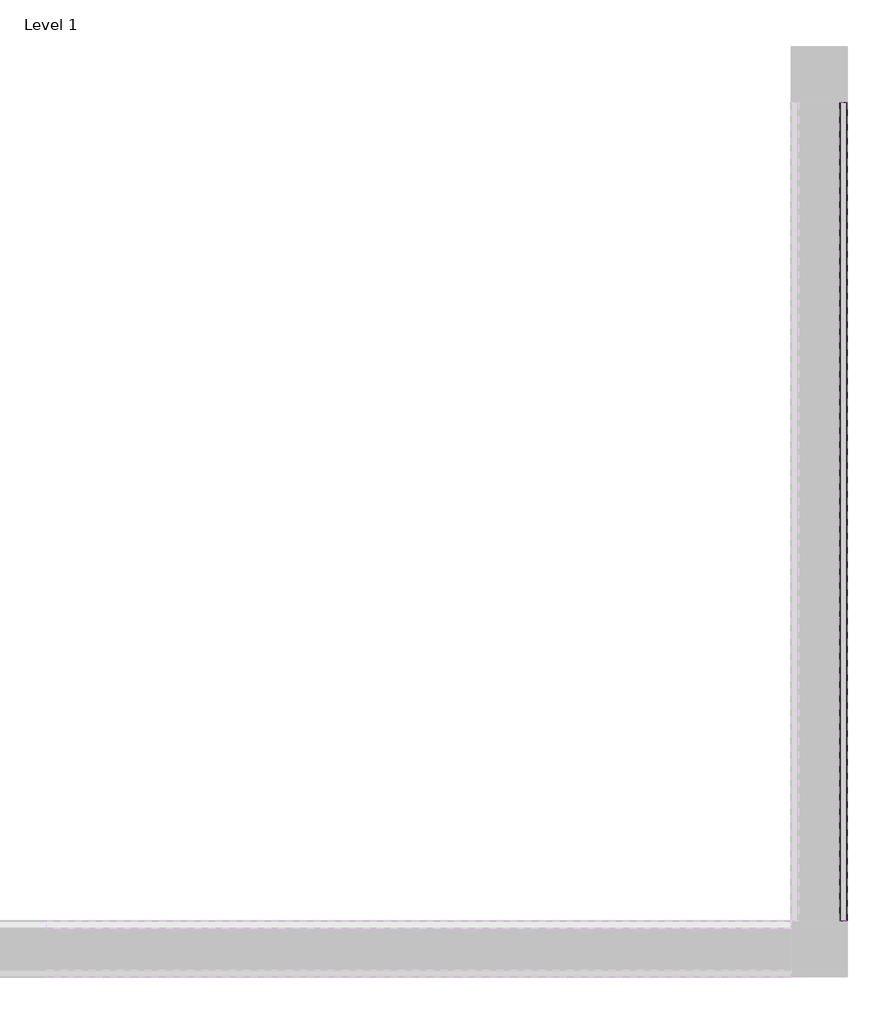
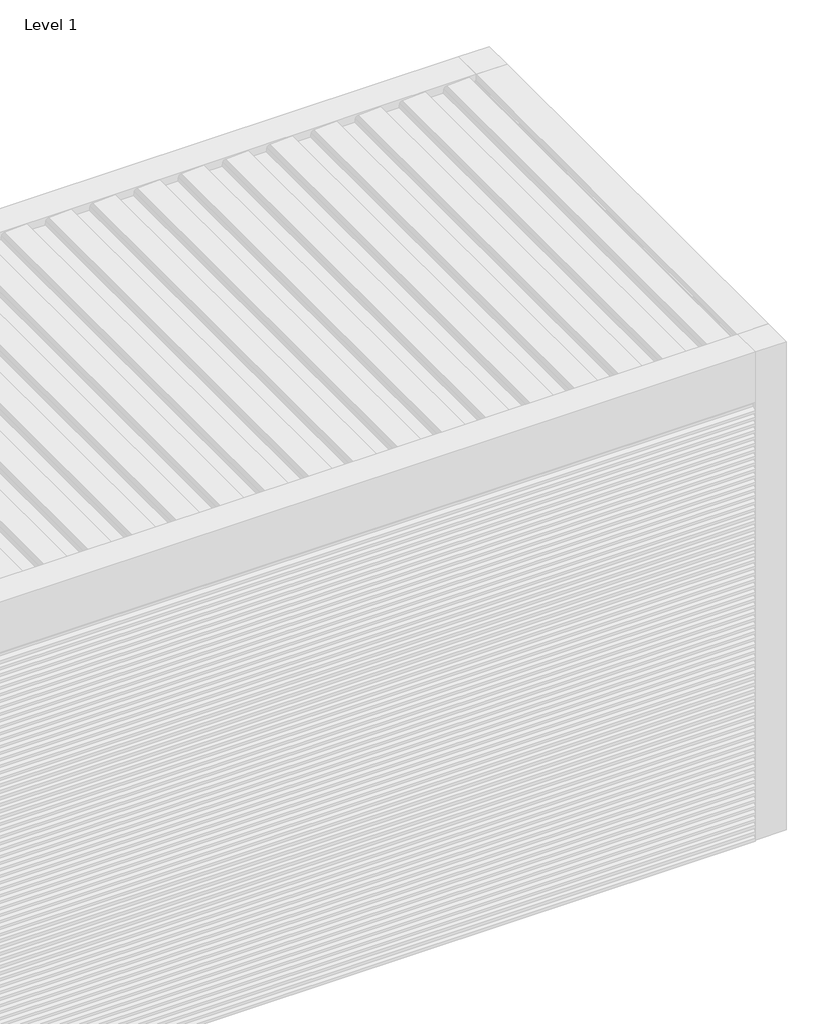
# One storey, part 66 of 69: 85 proxies.
"""IFC4 building model written with IfcOpenShell, lengths in millimetres."""

from ifc_helpers import new_model, si_unit, frame, origin, place, context, project, spatial, polyline, outline, extrude, element, save

model = new_model("IFC4")

# Units and contexts
model_context = context("Model", 3, world=origin())
ifc_project = project(units=[si_unit("LENGTHUNIT", "METRE", prefix="MILLI")], contexts=[model_context])

# Site, building, storey
site = spatial("IfcSite", under=ifc_project)
building = spatial("IfcBuilding", under=site)
storey = spatial("IfcBuildingStorey", under=building, Name="Level 1", Elevation=0.0)

# Proxies
placement = place(None, origin())
element("IfcBuildingElementProxy", 1, Name="Wall Sweeps", at=placement, inside=storey, context=model_context, shape_type="SweptSolid", body=[
    extrude(outline(polyline([(2173.8, 228400.4900207), (2184.8562577, 228381.3400207), (2197.8, 228381.3400207), (2197.8, 228380.0900207), (2184.1345698, 228380.0900207), (2173.0782281, 228399.2400207), (2161.0216933, 228399.2400207), (2160.3, 228400.4900207), (2173.8, 228400.4900207)])), frame((0.0, 39672.1593685, 0.0), z_axis=(0.0, 1.0, 0.0), x_axis=(0.0, 0.0, 1.0)), (0.0, 0.0, 1.0), 2200.0),
])
element("IfcBuildingElementProxy", 2, Name="Wall Sweeps", at=placement, inside=storey, context=model_context, shape_type="SweptSolid", body=[
    extrude(outline(polyline([(2140.5, 228400.4900207), (2151.5562577, 228381.3400207), (2164.5, 228381.3400207), (2164.5, 228380.0900207), (2150.8345698, 228380.0900207), (2139.7782281, 228399.2400207), (2127.7216933, 228399.2400207), (2127.0, 228400.4900207), (2140.5, 228400.4900207)])), frame((0.0, 39672.1593685, 0.0), z_axis=(0.0, 1.0, 0.0), x_axis=(0.0, 0.0, 1.0)), (0.0, 0.0, 1.0), 2200.0),
])
element("IfcBuildingElementProxy", 3, Name="Wall Sweeps", at=placement, inside=storey, context=model_context, shape_type="SweptSolid", body=[
    extrude(outline(polyline([(2107.2, 228400.4900207), (2118.2562577, 228381.3400207), (2131.2, 228381.3400207), (2131.2, 228380.0900207), (2117.5345698, 228380.0900207), (2106.4782281, 228399.2400207), (2094.4216933, 228399.2400207), (2093.7, 228400.4900207), (2107.2, 228400.4900207)])), frame((0.0, 39672.1593685, 0.0), z_axis=(0.0, 1.0, 0.0), x_axis=(0.0, 0.0, 1.0)), (0.0, 0.0, 1.0), 2200.0),
])
element("IfcBuildingElementProxy", 4, Name="Wall Sweeps", at=placement, inside=storey, context=model_context, shape_type="SweptSolid", body=[
    extrude(outline(polyline([(2073.9, 228400.4900207), (2084.9562577, 228381.3400207), (2097.9, 228381.3400207), (2097.9, 228380.0900207), (2084.2345698, 228380.0900207), (2073.1782281, 228399.2400207), (2061.1216933, 228399.2400207), (2060.4, 228400.4900207), (2073.9, 228400.4900207)])), frame((0.0, 39672.1593685, 0.0), z_axis=(0.0, 1.0, 0.0), x_axis=(0.0, 0.0, 1.0)), (0.0, 0.0, 1.0), 2200.0),
])
element("IfcBuildingElementProxy", 5, Name="Wall Sweeps", at=placement, inside=storey, context=model_context, shape_type="SweptSolid", body=[
    extrude(outline(polyline([(2040.6, 228400.4900207), (2051.6562577, 228381.3400207), (2064.6, 228381.3400207), (2064.6, 228380.0900207), (2050.9345698, 228380.0900207), (2039.8782281, 228399.2400207), (2027.8216933, 228399.2400207), (2027.1, 228400.4900207), (2040.6, 228400.4900207)])), frame((0.0, 39672.1593685, 0.0), z_axis=(0.0, 1.0, 0.0), x_axis=(0.0, 0.0, 1.0)), (0.0, 0.0, 1.0), 2200.0),
])
element("IfcBuildingElementProxy", 6, Name="Wall Sweeps", at=placement, inside=storey, context=model_context, shape_type="SweptSolid", body=[
    extrude(outline(polyline([(2007.3, 228400.4900207), (2018.3562577, 228381.3400207), (2031.3, 228381.3400207), (2031.3, 228380.0900207), (2017.6345698, 228380.0900207), (2006.5782281, 228399.2400207), (1994.5216933, 228399.2400207), (1993.8, 228400.4900207), (2007.3, 228400.4900207)])), frame((0.0, 39672.1593685, 0.0), z_axis=(0.0, 1.0, 0.0), x_axis=(0.0, 0.0, 1.0)), (0.0, 0.0, 1.0), 2200.0),
])
element("IfcBuildingElementProxy", 7, Name="Wall Sweeps", at=placement, inside=storey, context=model_context, shape_type="SweptSolid", body=[
    extrude(outline(polyline([(1974.0, 228400.4900207), (1985.0562577, 228381.3400207), (1998.0, 228381.3400207), (1998.0, 228380.0900207), (1984.3345698, 228380.0900207), (1973.2782281, 228399.2400207), (1961.2216933, 228399.2400207), (1960.5, 228400.4900207), (1974.0, 228400.4900207)])), frame((0.0, 39672.1593685, 0.0), z_axis=(0.0, 1.0, 0.0), x_axis=(0.0, 0.0, 1.0)), (0.0, 0.0, 1.0), 2200.0),
])
element("IfcBuildingElementProxy", 8, Name="Wall Sweeps", at=placement, inside=storey, context=model_context, shape_type="SweptSolid", body=[
    extrude(outline(polyline([(1940.7, 228400.4900207), (1951.7562577, 228381.3400207), (1964.7, 228381.3400207), (1964.7, 228380.0900207), (1951.0345698, 228380.0900207), (1939.9782281, 228399.2400207), (1927.9216933, 228399.2400207), (1927.2, 228400.4900207), (1940.7, 228400.4900207)])), frame((0.0, 39672.1593685, 0.0), z_axis=(0.0, 1.0, 0.0), x_axis=(0.0, 0.0, 1.0)), (0.0, 0.0, 1.0), 2200.0),
])
element("IfcBuildingElementProxy", 9, Name="Wall Sweeps", at=placement, inside=storey, context=model_context, shape_type="SweptSolid", body=[
    extrude(outline(polyline([(1907.4, 228400.4900207), (1918.4562577, 228381.3400207), (1931.4, 228381.3400207), (1931.4, 228380.0900207), (1917.7345698, 228380.0900207), (1906.6782281, 228399.2400207), (1894.6216933, 228399.2400207), (1893.9, 228400.4900207), (1907.4, 228400.4900207)])), frame((0.0, 39672.1593685, 0.0), z_axis=(0.0, 1.0, 0.0), x_axis=(0.0, 0.0, 1.0)), (0.0, 0.0, 1.0), 2200.0),
])
element("IfcBuildingElementProxy", 10, Name="Wall Sweeps", at=placement, inside=storey, context=model_context, shape_type="SweptSolid", body=[
    extrude(outline(polyline([(1874.1, 228400.4900207), (1885.1562577, 228381.3400207), (1898.1, 228381.3400207), (1898.1, 228380.0900207), (1884.4345698, 228380.0900207), (1873.3782281, 228399.2400207), (1861.3216933, 228399.2400207), (1860.6, 228400.4900207), (1874.1, 228400.4900207)])), frame((0.0, 39672.1593685, 0.0), z_axis=(0.0, 1.0, 0.0), x_axis=(0.0, 0.0, 1.0)), (0.0, 0.0, 1.0), 2200.0),
])
element("IfcBuildingElementProxy", 11, Name="Wall Sweeps", at=placement, inside=storey, context=model_context, shape_type="SweptSolid", body=[
    extrude(outline(polyline([(1840.8, 228400.4900207), (1851.8562577, 228381.3400207), (1864.8, 228381.3400207), (1864.8, 228380.0900207), (1851.1345698, 228380.0900207), (1840.0782281, 228399.2400207), (1828.0216933, 228399.2400207), (1827.3, 228400.4900207), (1840.8, 228400.4900207)])), frame((0.0, 39672.1593685, 0.0), z_axis=(0.0, 1.0, 0.0), x_axis=(0.0, 0.0, 1.0)), (0.0, 0.0, 1.0), 2200.0),
])
element("IfcBuildingElementProxy", 12, Name="Wall Sweeps", at=placement, inside=storey, context=model_context, shape_type="SweptSolid", body=[
    extrude(outline(polyline([(1807.5, 228400.4900207), (1818.5562577, 228381.3400207), (1831.5, 228381.3400207), (1831.5, 228380.0900207), (1817.8345698, 228380.0900207), (1806.7782281, 228399.2400207), (1794.7216933, 228399.2400207), (1794.0, 228400.4900207), (1807.5, 228400.4900207)])), frame((0.0, 39672.1593685, 0.0), z_axis=(0.0, 1.0, 0.0), x_axis=(0.0, 0.0, 1.0)), (0.0, 0.0, 1.0), 2200.0),
])
element("IfcBuildingElementProxy", 13, Name="Wall Sweeps", at=placement, inside=storey, context=model_context, shape_type="SweptSolid", body=[
    extrude(outline(polyline([(1774.2, 228400.4900207), (1785.2562577, 228381.3400207), (1798.2, 228381.3400207), (1798.2, 228380.0900207), (1784.5345698, 228380.0900207), (1773.4782281, 228399.2400207), (1761.4216933, 228399.2400207), (1760.7, 228400.4900207), (1774.2, 228400.4900207)])), frame((0.0, 39672.1593685, 0.0), z_axis=(0.0, 1.0, 0.0), x_axis=(0.0, 0.0, 1.0)), (0.0, 0.0, 1.0), 2200.0),
])
element("IfcBuildingElementProxy", 14, Name="Wall Sweeps", at=placement, inside=storey, context=model_context, shape_type="SweptSolid", body=[
    extrude(outline(polyline([(1740.9, 228400.4900207), (1751.9562577, 228381.3400207), (1764.9, 228381.3400207), (1764.9, 228380.0900207), (1751.2345698, 228380.0900207), (1740.1782281, 228399.2400207), (1728.1216933, 228399.2400207), (1727.4, 228400.4900207), (1740.9, 228400.4900207)])), frame((0.0, 39672.1593685, 0.0), z_axis=(0.0, 1.0, 0.0), x_axis=(0.0, 0.0, 1.0)), (0.0, 0.0, 1.0), 2200.0),
])
element("IfcBuildingElementProxy", 15, Name="Wall Sweeps", at=placement, inside=storey, context=model_context, shape_type="SweptSolid", body=[
    extrude(outline(polyline([(1707.6, 228400.4900207), (1718.6562577, 228381.3400207), (1731.6, 228381.3400207), (1731.6, 228380.0900207), (1717.9345698, 228380.0900207), (1706.8782281, 228399.2400207), (1694.8216933, 228399.2400207), (1694.1, 228400.4900207), (1707.6, 228400.4900207)])), frame((0.0, 39672.1593685, 0.0), z_axis=(0.0, 1.0, 0.0), x_axis=(0.0, 0.0, 1.0)), (0.0, 0.0, 1.0), 2200.0),
])
element("IfcBuildingElementProxy", 16, Name="Wall Sweeps", at=placement, inside=storey, context=model_context, shape_type="SweptSolid", body=[
    extrude(outline(polyline([(1674.3, 228400.4900207), (1685.3562577, 228381.3400207), (1698.3, 228381.3400207), (1698.3, 228380.0900207), (1684.6345698, 228380.0900207), (1673.5782281, 228399.2400207), (1661.5216933, 228399.2400207), (1660.8, 228400.4900207), (1674.3, 228400.4900207)])), frame((0.0, 39672.1593685, 0.0), z_axis=(0.0, 1.0, 0.0), x_axis=(0.0, 0.0, 1.0)), (0.0, 0.0, 1.0), 2200.0),
])
element("IfcBuildingElementProxy", 17, Name="Wall Sweeps", at=placement, inside=storey, context=model_context, shape_type="SweptSolid", body=[
    extrude(outline(polyline([(1641.0, 228400.4900207), (1652.0562577, 228381.3400207), (1665.0, 228381.3400207), (1665.0, 228380.0900207), (1651.3345698, 228380.0900207), (1640.2782281, 228399.2400207), (1628.2216933, 228399.2400207), (1627.5, 228400.4900207), (1641.0, 228400.4900207)])), frame((0.0, 39672.1593685, 0.0), z_axis=(0.0, 1.0, 0.0), x_axis=(0.0, 0.0, 1.0)), (0.0, 0.0, 1.0), 2200.0),
])
element("IfcBuildingElementProxy", 18, Name="Wall Sweeps", at=placement, inside=storey, context=model_context, shape_type="SweptSolid", body=[
    extrude(outline(polyline([(1607.7, 228400.4900207), (1618.7562577, 228381.3400207), (1631.7, 228381.3400207), (1631.7, 228380.0900207), (1618.0345698, 228380.0900207), (1606.9782281, 228399.2400207), (1594.9216933, 228399.2400207), (1594.2, 228400.4900207), (1607.7, 228400.4900207)])), frame((0.0, 39672.1593685, 0.0), z_axis=(0.0, 1.0, 0.0), x_axis=(0.0, 0.0, 1.0)), (0.0, 0.0, 1.0), 2200.0),
])
element("IfcBuildingElementProxy", 19, Name="Wall Sweeps", at=placement, inside=storey, context=model_context, shape_type="SweptSolid", body=[
    extrude(outline(polyline([(1574.4, 228400.4900207), (1585.4562577, 228381.3400207), (1598.4, 228381.3400207), (1598.4, 228380.0900207), (1584.7345698, 228380.0900207), (1573.6782281, 228399.2400207), (1561.6216933, 228399.2400207), (1560.9, 228400.4900207), (1574.4, 228400.4900207)])), frame((0.0, 39672.1593685, 0.0), z_axis=(0.0, 1.0, 0.0), x_axis=(0.0, 0.0, 1.0)), (0.0, 0.0, 1.0), 2200.0),
])
element("IfcBuildingElementProxy", 20, Name="Wall Sweeps", at=placement, inside=storey, context=model_context, shape_type="SweptSolid", body=[
    extrude(outline(polyline([(1541.1, 228400.4900207), (1552.1562577, 228381.3400207), (1565.1, 228381.3400207), (1565.1, 228380.0900207), (1551.4345698, 228380.0900207), (1540.3782281, 228399.2400207), (1528.3216933, 228399.2400207), (1527.6, 228400.4900207), (1541.1, 228400.4900207)])), frame((0.0, 39672.1593685, 0.0), z_axis=(0.0, 1.0, 0.0), x_axis=(0.0, 0.0, 1.0)), (0.0, 0.0, 1.0), 2200.0),
])
element("IfcBuildingElementProxy", 21, Name="Wall Sweeps", at=placement, inside=storey, context=model_context, shape_type="SweptSolid", body=[
    extrude(outline(polyline([(1507.8, 228400.4900207), (1518.8562577, 228381.3400207), (1531.8, 228381.3400207), (1531.8, 228380.0900207), (1518.1345698, 228380.0900207), (1507.0782281, 228399.2400207), (1495.0216933, 228399.2400207), (1494.3, 228400.4900207), (1507.8, 228400.4900207)])), frame((0.0, 39672.1593685, 0.0), z_axis=(0.0, 1.0, 0.0), x_axis=(0.0, 0.0, 1.0)), (0.0, 0.0, 1.0), 2200.0),
])
element("IfcBuildingElementProxy", 22, Name="Wall Sweeps", at=placement, inside=storey, context=model_context, shape_type="SweptSolid", body=[
    extrude(outline(polyline([(1474.5, 228400.4900207), (1485.5562577, 228381.3400207), (1498.5, 228381.3400207), (1498.5, 228380.0900207), (1484.8345698, 228380.0900207), (1473.7782281, 228399.2400207), (1461.7216933, 228399.2400207), (1461.0, 228400.4900207), (1474.5, 228400.4900207)])), frame((0.0, 39672.1593685, 0.0), z_axis=(0.0, 1.0, 0.0), x_axis=(0.0, 0.0, 1.0)), (0.0, 0.0, 1.0), 2200.0),
])
element("IfcBuildingElementProxy", 23, Name="Wall Sweeps", at=placement, inside=storey, context=model_context, shape_type="SweptSolid", body=[
    extrude(outline(polyline([(1441.2, 228400.4900207), (1452.2562577, 228381.3400207), (1465.2, 228381.3400207), (1465.2, 228380.0900207), (1451.5345698, 228380.0900207), (1440.4782281, 228399.2400207), (1428.4216933, 228399.2400207), (1427.7, 228400.4900207), (1441.2, 228400.4900207)])), frame((0.0, 39672.1593685, 0.0), z_axis=(0.0, 1.0, 0.0), x_axis=(0.0, 0.0, 1.0)), (0.0, 0.0, 1.0), 2200.0),
])
element("IfcBuildingElementProxy", 24, Name="Wall Sweeps", at=placement, inside=storey, context=model_context, shape_type="SweptSolid", body=[
    extrude(outline(polyline([(1407.9, 228400.4900207), (1418.9562577, 228381.3400207), (1431.9, 228381.3400207), (1431.9, 228380.0900207), (1418.2345698, 228380.0900207), (1407.1782281, 228399.2400207), (1395.1216933, 228399.2400207), (1394.4, 228400.4900207), (1407.9, 228400.4900207)])), frame((0.0, 39672.1593685, 0.0), z_axis=(0.0, 1.0, 0.0), x_axis=(0.0, 0.0, 1.0)), (0.0, 0.0, 1.0), 2200.0),
])
element("IfcBuildingElementProxy", 25, Name="Wall Sweeps", at=placement, inside=storey, context=model_context, shape_type="SweptSolid", body=[
    extrude(outline(polyline([(1374.6, 228400.4900207), (1385.6562577, 228381.3400207), (1398.6, 228381.3400207), (1398.6, 228380.0900207), (1384.9345698, 228380.0900207), (1373.8782281, 228399.2400207), (1361.8216933, 228399.2400207), (1361.1, 228400.4900207), (1374.6, 228400.4900207)])), frame((0.0, 39672.1593685, 0.0), z_axis=(0.0, 1.0, 0.0), x_axis=(0.0, 0.0, 1.0)), (0.0, 0.0, 1.0), 2200.0),
])
element("IfcBuildingElementProxy", 26, Name="Wall Sweeps", at=placement, inside=storey, context=model_context, shape_type="SweptSolid", body=[
    extrude(outline(polyline([(1341.3, 228400.4900207), (1352.3562577, 228381.3400207), (1365.3, 228381.3400207), (1365.3, 228380.0900207), (1351.6345698, 228380.0900207), (1340.5782281, 228399.2400207), (1328.5216933, 228399.2400207), (1327.8, 228400.4900207), (1341.3, 228400.4900207)])), frame((0.0, 39672.1593685, 0.0), z_axis=(0.0, 1.0, 0.0), x_axis=(0.0, 0.0, 1.0)), (0.0, 0.0, 1.0), 2200.0),
])
element("IfcBuildingElementProxy", 27, Name="Wall Sweeps", at=placement, inside=storey, context=model_context, shape_type="SweptSolid", body=[
    extrude(outline(polyline([(1308.0, 228400.4900207), (1319.0562577, 228381.3400207), (1332.0, 228381.3400207), (1332.0, 228380.0900207), (1318.3345698, 228380.0900207), (1307.2782281, 228399.2400207), (1295.2216933, 228399.2400207), (1294.5, 228400.4900207), (1308.0, 228400.4900207)])), frame((0.0, 39672.1593685, 0.0), z_axis=(0.0, 1.0, 0.0), x_axis=(0.0, 0.0, 1.0)), (0.0, 0.0, 1.0), 2200.0),
])
element("IfcBuildingElementProxy", 28, Name="Wall Sweeps", at=placement, inside=storey, context=model_context, shape_type="SweptSolid", body=[
    extrude(outline(polyline([(1274.7, 228400.4900207), (1285.7562577, 228381.3400207), (1298.7, 228381.3400207), (1298.7, 228380.0900207), (1285.0345698, 228380.0900207), (1273.9782281, 228399.2400207), (1261.9216933, 228399.2400207), (1261.2, 228400.4900207), (1274.7, 228400.4900207)])), frame((0.0, 39672.1593685, 0.0), z_axis=(0.0, 1.0, 0.0), x_axis=(0.0, 0.0, 1.0)), (0.0, 0.0, 1.0), 2200.0),
])
element("IfcBuildingElementProxy", 29, Name="Wall Sweeps", at=placement, inside=storey, context=model_context, shape_type="SweptSolid", body=[
    extrude(outline(polyline([(1241.4, 228400.4900207), (1252.4562577, 228381.3400207), (1265.4, 228381.3400207), (1265.4, 228380.0900207), (1251.7345698, 228380.0900207), (1240.6782281, 228399.2400207), (1228.6216933, 228399.2400207), (1227.9, 228400.4900207), (1241.4, 228400.4900207)])), frame((0.0, 39672.1593685, 0.0), z_axis=(0.0, 1.0, 0.0), x_axis=(0.0, 0.0, 1.0)), (0.0, 0.0, 1.0), 2200.0),
])
element("IfcBuildingElementProxy", 30, Name="Wall Sweeps", at=placement, inside=storey, context=model_context, shape_type="SweptSolid", body=[
    extrude(outline(polyline([(1208.1, 228400.4900207), (1219.1562577, 228381.3400207), (1232.1, 228381.3400207), (1232.1, 228380.0900207), (1218.4345698, 228380.0900207), (1207.3782281, 228399.2400207), (1195.3216933, 228399.2400207), (1194.6, 228400.4900207), (1208.1, 228400.4900207)])), frame((0.0, 39672.1593685, 0.0), z_axis=(0.0, 1.0, 0.0), x_axis=(0.0, 0.0, 1.0)), (0.0, 0.0, 1.0), 2200.0),
])
element("IfcBuildingElementProxy", 31, Name="Wall Sweeps", at=placement, inside=storey, context=model_context, shape_type="SweptSolid", body=[
    extrude(outline(polyline([(1174.8, 228400.4900207), (1185.8562577, 228381.3400207), (1198.8, 228381.3400207), (1198.8, 228380.0900207), (1185.1345698, 228380.0900207), (1174.0782281, 228399.2400207), (1162.0216933, 228399.2400207), (1161.3, 228400.4900207), (1174.8, 228400.4900207)])), frame((0.0, 39672.1593685, 0.0), z_axis=(0.0, 1.0, 0.0), x_axis=(0.0, 0.0, 1.0)), (0.0, 0.0, 1.0), 2200.0),
])
element("IfcBuildingElementProxy", 32, Name="Wall Sweeps", at=placement, inside=storey, context=model_context, shape_type="SweptSolid", body=[
    extrude(outline(polyline([(1141.5, 228400.4900207), (1152.5562577, 228381.3400207), (1165.5, 228381.3400207), (1165.5, 228380.0900207), (1151.8345698, 228380.0900207), (1140.7782281, 228399.2400207), (1128.7216933, 228399.2400207), (1128.0, 228400.4900207), (1141.5, 228400.4900207)])), frame((0.0, 39672.1593685, 0.0), z_axis=(0.0, 1.0, 0.0), x_axis=(0.0, 0.0, 1.0)), (0.0, 0.0, 1.0), 2200.0),
])
element("IfcBuildingElementProxy", 33, Name="Wall Sweeps", at=placement, inside=storey, context=model_context, shape_type="SweptSolid", body=[
    extrude(outline(polyline([(1108.2, 228400.4900207), (1119.2562577, 228381.3400207), (1132.2, 228381.3400207), (1132.2, 228380.0900207), (1118.5345698, 228380.0900207), (1107.4782281, 228399.2400207), (1095.4216933, 228399.2400207), (1094.7, 228400.4900207), (1108.2, 228400.4900207)])), frame((0.0, 39672.1593685, 0.0), z_axis=(0.0, 1.0, 0.0), x_axis=(0.0, 0.0, 1.0)), (0.0, 0.0, 1.0), 2200.0),
])
element("IfcBuildingElementProxy", 34, Name="Wall Sweeps", at=placement, inside=storey, context=model_context, shape_type="SweptSolid", body=[
    extrude(outline(polyline([(1074.9, 228400.4900207), (1085.9562577, 228381.3400207), (1098.9, 228381.3400207), (1098.9, 228380.0900207), (1085.2345698, 228380.0900207), (1074.1782281, 228399.2400207), (1062.1216933, 228399.2400207), (1061.4, 228400.4900207), (1074.9, 228400.4900207)])), frame((0.0, 39672.1593685, 0.0), z_axis=(0.0, 1.0, 0.0), x_axis=(0.0, 0.0, 1.0)), (0.0, 0.0, 1.0), 2200.0),
])
element("IfcBuildingElementProxy", 35, Name="Wall Sweeps", at=placement, inside=storey, context=model_context, shape_type="SweptSolid", body=[
    extrude(outline(polyline([(1041.6, 228400.4900207), (1052.6562577, 228381.3400207), (1065.6, 228381.3400207), (1065.6, 228380.0900207), (1051.9345698, 228380.0900207), (1040.8782281, 228399.2400207), (1028.8216933, 228399.2400207), (1028.1, 228400.4900207), (1041.6, 228400.4900207)])), frame((0.0, 39672.1593685, 0.0), z_axis=(0.0, 1.0, 0.0), x_axis=(0.0, 0.0, 1.0)), (0.0, 0.0, 1.0), 2200.0),
])
element("IfcBuildingElementProxy", 36, Name="Wall Sweeps", at=placement, inside=storey, context=model_context, shape_type="SweptSolid", body=[
    extrude(outline(polyline([(1008.3, 228400.4900207), (1019.3562577, 228381.3400207), (1032.3, 228381.3400207), (1032.3, 228380.0900207), (1018.6345698, 228380.0900207), (1007.5782281, 228399.2400207), (995.5216933, 228399.2400207), (994.8, 228400.4900207), (1008.3, 228400.4900207)])), frame((0.0, 39672.1593685, 0.0), z_axis=(0.0, 1.0, 0.0), x_axis=(0.0, 0.0, 1.0)), (0.0, 0.0, 1.0), 2200.0),
])
element("IfcBuildingElementProxy", 37, Name="Wall Sweeps", at=placement, inside=storey, context=model_context, shape_type="SweptSolid", body=[
    extrude(outline(polyline([(975.0, 228400.4900207), (986.0562577, 228381.3400207), (999.0, 228381.3400207), (999.0, 228380.0900207), (985.3345698, 228380.0900207), (974.2782281, 228399.2400207), (962.2216933, 228399.2400207), (961.5, 228400.4900207), (975.0, 228400.4900207)])), frame((0.0, 39672.1593685, 0.0), z_axis=(0.0, 1.0, 0.0), x_axis=(0.0, 0.0, 1.0)), (0.0, 0.0, 1.0), 2200.0),
])
element("IfcBuildingElementProxy", 38, Name="Wall Sweeps", at=placement, inside=storey, context=model_context, shape_type="SweptSolid", body=[
    extrude(outline(polyline([(941.7, 228400.4900207), (952.7562577, 228381.3400207), (965.7, 228381.3400207), (965.7, 228380.0900207), (952.0345698, 228380.0900207), (940.9782281, 228399.2400207), (928.9216933, 228399.2400207), (928.2, 228400.4900207), (941.7, 228400.4900207)])), frame((0.0, 39672.1593685, 0.0), z_axis=(0.0, 1.0, 0.0), x_axis=(0.0, 0.0, 1.0)), (0.0, 0.0, 1.0), 2200.0),
])
element("IfcBuildingElementProxy", 39, Name="Wall Sweeps", at=placement, inside=storey, context=model_context, shape_type="SweptSolid", body=[
    extrude(outline(polyline([(908.4, 228400.4900207), (919.4562577, 228381.3400207), (932.4, 228381.3400207), (932.4, 228380.0900207), (918.7345698, 228380.0900207), (907.6782281, 228399.2400207), (895.6216933, 228399.2400207), (894.9, 228400.4900207), (908.4, 228400.4900207)])), frame((0.0, 39672.1593685, 0.0), z_axis=(0.0, 1.0, 0.0), x_axis=(0.0, 0.0, 1.0)), (0.0, 0.0, 1.0), 2200.0),
])
element("IfcBuildingElementProxy", 40, Name="Wall Sweeps", at=placement, inside=storey, context=model_context, shape_type="SweptSolid", body=[
    extrude(outline(polyline([(875.1, 228400.4900207), (886.1562577, 228381.3400207), (899.1, 228381.3400207), (899.1, 228380.0900207), (885.4345698, 228380.0900207), (874.3782281, 228399.2400207), (862.3216933, 228399.2400207), (861.6, 228400.4900207), (875.1, 228400.4900207)])), frame((0.0, 39672.1593685, 0.0), z_axis=(0.0, 1.0, 0.0), x_axis=(0.0, 0.0, 1.0)), (0.0, 0.0, 1.0), 2200.0),
])
element("IfcBuildingElementProxy", 41, Name="Wall Sweeps", at=placement, inside=storey, context=model_context, shape_type="SweptSolid", body=[
    extrude(outline(polyline([(841.8, 228400.4900207), (852.8562577, 228381.3400207), (865.8, 228381.3400207), (865.8, 228380.0900207), (852.1345698, 228380.0900207), (841.0782281, 228399.2400207), (829.0216933, 228399.2400207), (828.3, 228400.4900207), (841.8, 228400.4900207)])), frame((0.0, 39672.1593685, 0.0), z_axis=(0.0, 1.0, 0.0), x_axis=(0.0, 0.0, 1.0)), (0.0, 0.0, 1.0), 2200.0),
])
element("IfcBuildingElementProxy", 42, Name="Wall Sweeps", at=placement, inside=storey, context=model_context, shape_type="SweptSolid", body=[
    extrude(outline(polyline([(808.5, 228400.4900207), (819.5562577, 228381.3400207), (832.5, 228381.3400207), (832.5, 228380.0900207), (818.8345698, 228380.0900207), (807.7782281, 228399.2400207), (795.7216933, 228399.2400207), (795.0, 228400.4900207), (808.5, 228400.4900207)])), frame((0.0, 39672.1593685, 0.0), z_axis=(0.0, 1.0, 0.0), x_axis=(0.0, 0.0, 1.0)), (0.0, 0.0, 1.0), 2200.0),
])
element("IfcBuildingElementProxy", 43, Name="Wall Sweeps", at=placement, inside=storey, context=model_context, shape_type="SweptSolid", body=[
    extrude(outline(polyline([(775.2, 228400.4900207), (786.2562577, 228381.3400207), (799.2, 228381.3400207), (799.2, 228380.0900207), (785.5345698, 228380.0900207), (774.4782281, 228399.2400207), (762.4216933, 228399.2400207), (761.7, 228400.4900207), (775.2, 228400.4900207)])), frame((0.0, 39672.1593685, 0.0), z_axis=(0.0, 1.0, 0.0), x_axis=(0.0, 0.0, 1.0)), (0.0, 0.0, 1.0), 2200.0),
])
element("IfcBuildingElementProxy", 44, Name="Wall Sweeps", at=placement, inside=storey, context=model_context, shape_type="SweptSolid", body=[
    extrude(outline(polyline([(741.9, 228400.4900207), (752.9562577, 228381.3400207), (765.9, 228381.3400207), (765.9, 228380.0900207), (752.2345698, 228380.0900207), (741.1782281, 228399.2400207), (729.1216933, 228399.2400207), (728.4, 228400.4900207), (741.9, 228400.4900207)])), frame((0.0, 39672.1593685, 0.0), z_axis=(0.0, 1.0, 0.0), x_axis=(0.0, 0.0, 1.0)), (0.0, 0.0, 1.0), 2200.0),
])
element("IfcBuildingElementProxy", 45, Name="Wall Sweeps", at=placement, inside=storey, context=model_context, shape_type="SweptSolid", body=[
    extrude(outline(polyline([(708.6, 228400.4900207), (719.6562577, 228381.3400207), (732.6, 228381.3400207), (732.6, 228380.0900207), (718.9345698, 228380.0900207), (707.8782281, 228399.2400207), (695.8216933, 228399.2400207), (695.1, 228400.4900207), (708.6, 228400.4900207)])), frame((0.0, 39672.1593685, 0.0), z_axis=(0.0, 1.0, 0.0), x_axis=(0.0, 0.0, 1.0)), (0.0, 0.0, 1.0), 2200.0),
])
element("IfcBuildingElementProxy", 46, Name="Wall Sweeps", at=placement, inside=storey, context=model_context, shape_type="SweptSolid", body=[
    extrude(outline(polyline([(675.3, 228400.4900207), (686.3562577, 228381.3400207), (699.3, 228381.3400207), (699.3, 228380.0900207), (685.6345698, 228380.0900207), (674.5782281, 228399.2400207), (662.5216933, 228399.2400207), (661.8, 228400.4900207), (675.3, 228400.4900207)])), frame((0.0, 39672.1593685, 0.0), z_axis=(0.0, 1.0, 0.0), x_axis=(0.0, 0.0, 1.0)), (0.0, 0.0, 1.0), 2200.0),
])
element("IfcBuildingElementProxy", 47, Name="Wall Sweeps", at=placement, inside=storey, context=model_context, shape_type="SweptSolid", body=[
    extrude(outline(polyline([(642.0, 228400.4900207), (653.0562577, 228381.3400207), (666.0, 228381.3400207), (666.0, 228380.0900207), (652.3345698, 228380.0900207), (641.2782281, 228399.2400207), (629.2216933, 228399.2400207), (628.5, 228400.4900207), (642.0, 228400.4900207)])), frame((0.0, 39672.1593685, 0.0), z_axis=(0.0, 1.0, 0.0), x_axis=(0.0, 0.0, 1.0)), (0.0, 0.0, 1.0), 2200.0),
])
element("IfcBuildingElementProxy", 48, Name="Wall Sweeps", at=placement, inside=storey, context=model_context, shape_type="SweptSolid", body=[
    extrude(outline(polyline([(608.7, 228400.4900207), (619.7562577, 228381.3400207), (632.7, 228381.3400207), (632.7, 228380.0900207), (619.0345698, 228380.0900207), (607.9782281, 228399.2400207), (595.9216933, 228399.2400207), (595.2, 228400.4900207), (608.7, 228400.4900207)])), frame((0.0, 39672.1593685, 0.0), z_axis=(0.0, 1.0, 0.0), x_axis=(0.0, 0.0, 1.0)), (0.0, 0.0, 1.0), 2200.0),
])
element("IfcBuildingElementProxy", 49, Name="Wall Sweeps", at=placement, inside=storey, context=model_context, shape_type="SweptSolid", body=[
    extrude(outline(polyline([(575.4, 228400.4900207), (586.4562577, 228381.3400207), (599.4, 228381.3400207), (599.4, 228380.0900207), (585.7345698, 228380.0900207), (574.6782281, 228399.2400207), (562.6216933, 228399.2400207), (561.9, 228400.4900207), (575.4, 228400.4900207)])), frame((0.0, 39672.1593685, 0.0), z_axis=(0.0, 1.0, 0.0), x_axis=(0.0, 0.0, 1.0)), (0.0, 0.0, 1.0), 2200.0),
])
element("IfcBuildingElementProxy", 50, Name="Wall Sweeps", at=placement, inside=storey, context=model_context, shape_type="SweptSolid", body=[
    extrude(outline(polyline([(542.1, 228400.4900207), (553.1562577, 228381.3400207), (566.1, 228381.3400207), (566.1, 228380.0900207), (552.4345698, 228380.0900207), (541.3782281, 228399.2400207), (529.3216933, 228399.2400207), (528.6, 228400.4900207), (542.1, 228400.4900207)])), frame((0.0, 39672.1593685, 0.0), z_axis=(0.0, 1.0, 0.0), x_axis=(0.0, 0.0, 1.0)), (0.0, 0.0, 1.0), 2200.0),
])
element("IfcBuildingElementProxy", 51, Name="Wall Sweeps", at=placement, inside=storey, context=model_context, shape_type="SweptSolid", body=[
    extrude(outline(polyline([(508.8, 228400.4900207), (519.8562577, 228381.3400207), (532.8, 228381.3400207), (532.8, 228380.0900207), (519.1345698, 228380.0900207), (508.0782281, 228399.2400207), (496.0216933, 228399.2400207), (495.3, 228400.4900207), (508.8, 228400.4900207)])), frame((0.0, 39672.1593685, 0.0), z_axis=(0.0, 1.0, 0.0), x_axis=(0.0, 0.0, 1.0)), (0.0, 0.0, 1.0), 2200.0),
])
element("IfcBuildingElementProxy", 52, Name="Wall Sweeps", at=placement, inside=storey, context=model_context, shape_type="SweptSolid", body=[
    extrude(outline(polyline([(475.5, 228400.4900207), (486.5562577, 228381.3400207), (499.5, 228381.3400207), (499.5, 228380.0900207), (485.8345698, 228380.0900207), (474.7782281, 228399.2400207), (462.7216933, 228399.2400207), (462.0, 228400.4900207), (475.5, 228400.4900207)])), frame((0.0, 39672.1593685, 0.0), z_axis=(0.0, 1.0, 0.0), x_axis=(0.0, 0.0, 1.0)), (0.0, 0.0, 1.0), 2200.0),
])
element("IfcBuildingElementProxy", 53, Name="Wall Sweeps", at=placement, inside=storey, context=model_context, shape_type="SweptSolid", body=[
    extrude(outline(polyline([(442.2, 228400.4900207), (453.2562577, 228381.3400207), (466.2, 228381.3400207), (466.2, 228380.0900207), (452.5345698, 228380.0900207), (441.4782281, 228399.2400207), (429.4216933, 228399.2400207), (428.7, 228400.4900207), (442.2, 228400.4900207)])), frame((0.0, 39672.1593685, 0.0), z_axis=(0.0, 1.0, 0.0), x_axis=(0.0, 0.0, 1.0)), (0.0, 0.0, 1.0), 2200.0),
])
element("IfcBuildingElementProxy", 54, Name="Wall Sweeps", at=placement, inside=storey, context=model_context, shape_type="SweptSolid", body=[
    extrude(outline(polyline([(408.9, 228400.4900207), (419.9562577, 228381.3400207), (432.9, 228381.3400207), (432.9, 228380.0900207), (419.2345698, 228380.0900207), (408.1782281, 228399.2400207), (396.1216933, 228399.2400207), (395.4, 228400.4900207), (408.9, 228400.4900207)])), frame((0.0, 39672.1593685, 0.0), z_axis=(0.0, 1.0, 0.0), x_axis=(0.0, 0.0, 1.0)), (0.0, 0.0, 1.0), 2200.0),
])
element("IfcBuildingElementProxy", 55, Name="Wall Sweeps", at=placement, inside=storey, context=model_context, shape_type="SweptSolid", body=[
    extrude(outline(polyline([(375.6, 228400.4900207), (386.6562577, 228381.3400207), (399.6, 228381.3400207), (399.6, 228380.0900207), (385.9345698, 228380.0900207), (374.8782281, 228399.2400207), (362.8216933, 228399.2400207), (362.1, 228400.4900207), (375.6, 228400.4900207)])), frame((0.0, 39672.1593685, 0.0), z_axis=(0.0, 1.0, 0.0), x_axis=(0.0, 0.0, 1.0)), (0.0, 0.0, 1.0), 2200.0),
])
element("IfcBuildingElementProxy", 56, Name="Wall Sweeps", at=placement, inside=storey, context=model_context, shape_type="SweptSolid", body=[
    extrude(outline(polyline([(342.3, 228400.4900207), (353.3562577, 228381.3400207), (366.3, 228381.3400207), (366.3, 228380.0900207), (352.6345698, 228380.0900207), (341.5782281, 228399.2400207), (329.5216933, 228399.2400207), (328.8, 228400.4900207), (342.3, 228400.4900207)])), frame((0.0, 39672.1593685, 0.0), z_axis=(0.0, 1.0, 0.0), x_axis=(0.0, 0.0, 1.0)), (0.0, 0.0, 1.0), 2200.0),
])
element("IfcBuildingElementProxy", 57, Name="Wall Sweeps", at=placement, inside=storey, context=model_context, shape_type="SweptSolid", body=[
    extrude(outline(polyline([(309.0, 228400.4900207), (320.0562577, 228381.3400207), (333.0, 228381.3400207), (333.0, 228380.0900207), (319.3345698, 228380.0900207), (308.2782281, 228399.2400207), (296.2216933, 228399.2400207), (295.5, 228400.4900207), (309.0, 228400.4900207)])), frame((0.0, 39672.1593685, 0.0), z_axis=(0.0, 1.0, 0.0), x_axis=(0.0, 0.0, 1.0)), (0.0, 0.0, 1.0), 2200.0),
])
element("IfcBuildingElementProxy", 58, Name="Wall Sweeps", at=placement, inside=storey, context=model_context, shape_type="SweptSolid", body=[
    extrude(outline(polyline([(275.7, 228400.4900207), (286.7562577, 228381.3400207), (299.7, 228381.3400207), (299.7, 228380.0900207), (286.0345698, 228380.0900207), (274.9782281, 228399.2400207), (262.9216933, 228399.2400207), (262.2, 228400.4900207), (275.7, 228400.4900207)])), frame((0.0, 39672.1593685, 0.0), z_axis=(0.0, 1.0, 0.0), x_axis=(0.0, 0.0, 1.0)), (0.0, 0.0, 1.0), 2200.0),
])
element("IfcBuildingElementProxy", 59, Name="Wall Sweeps", at=placement, inside=storey, context=model_context, shape_type="SweptSolid", body=[
    extrude(outline(polyline([(242.4, 228400.4900207), (253.4562577, 228381.3400207), (266.4, 228381.3400207), (266.4, 228380.0900207), (252.7345698, 228380.0900207), (241.6782281, 228399.2400207), (229.6216933, 228399.2400207), (228.9, 228400.4900207), (242.4, 228400.4900207)])), frame((0.0, 39672.1593685, 0.0), z_axis=(0.0, 1.0, 0.0), x_axis=(0.0, 0.0, 1.0)), (0.0, 0.0, 1.0), 2200.0),
])
element("IfcBuildingElementProxy", 60, Name="Wall Sweeps", at=placement, inside=storey, context=model_context, shape_type="SweptSolid", body=[
    extrude(outline(polyline([(209.1, 228400.4900207), (220.1562577, 228381.3400207), (233.1, 228381.3400207), (233.1, 228380.0900207), (219.4345698, 228380.0900207), (208.3782281, 228399.2400207), (196.3216933, 228399.2400207), (195.6, 228400.4900207), (209.1, 228400.4900207)])), frame((0.0, 39672.1593685, 0.0), z_axis=(0.0, 1.0, 0.0), x_axis=(0.0, 0.0, 1.0)), (0.0, 0.0, 1.0), 2200.0),
])
element("IfcBuildingElementProxy", 61, Name="Wall Sweeps", at=placement, inside=storey, context=model_context, shape_type="SweptSolid", body=[
    extrude(outline(polyline([(142.5, 228400.4900207), (153.5562577, 228381.3400207), (166.5, 228381.3400207), (166.5, 228380.0900207), (152.8345698, 228380.0900207), (141.7782281, 228399.2400207), (129.7216933, 228399.2400207), (129.0, 228400.4900207), (142.5, 228400.4900207)])), frame((0.0, 39672.1593685, 0.0), z_axis=(0.0, 1.0, 0.0), x_axis=(0.0, 0.0, 1.0)), (0.0, 0.0, 1.0), 2200.0),
])
element("IfcBuildingElementProxy", 62, Name="Wall Sweeps", at=placement, inside=storey, context=model_context, shape_type="SweptSolid", body=[
    extrude(outline(polyline([(109.2, 228400.4900207), (120.2562577, 228381.3400207), (133.2, 228381.3400207), (133.2, 228380.0900207), (119.5345698, 228380.0900207), (108.4782281, 228399.2400207), (96.4216933, 228399.2400207), (95.7, 228400.4900207), (109.2, 228400.4900207)])), frame((0.0, 39672.1593685, 0.0), z_axis=(0.0, 1.0, 0.0), x_axis=(0.0, 0.0, 1.0)), (0.0, 0.0, 1.0), 2200.0),
])
element("IfcBuildingElementProxy", 63, Name="Wall Sweeps", at=placement, inside=storey, context=model_context, shape_type="SweptSolid", body=[
    extrude(outline(polyline([(42.6, 228400.4900207), (53.6562577, 228381.3400207), (66.6, 228381.3400207), (66.6, 228380.0900207), (52.9345698, 228380.0900207), (41.8782281, 228399.2400207), (29.8216933, 228399.2400207), (29.1, 228400.4900207), (42.6, 228400.4900207)])), frame((0.0, 39672.1593685, 0.0), z_axis=(0.0, 1.0, 0.0), x_axis=(0.0, 0.0, 1.0)), (0.0, 0.0, 1.0), 2200.0),
])
element("IfcBuildingElementProxy", 64, Name="Wall Sweeps", at=placement, inside=storey, context=model_context, shape_type="SweptSolid", body=[
    extrude(outline(polyline([(9.3, 228400.4900207), (20.3562577, 228381.3400207), (33.3, 228381.3400207), (33.3, 228380.0900207), (19.6345698, 228380.0900207), (8.5782281, 228399.2400207), (-3.4783067, 228399.2400207), (-4.2, 228400.4900207), (9.3, 228400.4900207)])), frame((0.0, 39672.1593685, 0.0), z_axis=(0.0, 1.0, 0.0), x_axis=(0.0, 0.0, 1.0)), (0.0, 0.0, 1.0), 2200.0),
])
element("IfcBuildingElementProxy", 65, Name="Wall Sweeps", at=placement, inside=storey, context=model_context, shape_type="SweptSolid", body=[
    extrude(outline(polyline([(309.3, 228248.6900207), (295.8, 228248.6900207), (296.5216933, 228249.9400207), (308.5782281, 228249.9400207), (319.6345698, 228269.0900207), (333.3, 228269.0900207), (333.3, 228267.8400207), (320.3562577, 228267.8400207), (309.3, 228248.6900207)])), frame((0.0, 39672.1593685, 0.0), z_axis=(0.0, 1.0, 0.0), x_axis=(0.0, 0.0, 1.0)), (0.0, 0.0, 1.0), 2200.0),
])
element("IfcBuildingElementProxy", 66, Name="Wall Sweeps", at=placement, inside=storey, context=model_context, shape_type="SweptSolid", body=[
    extrude(outline(polyline([(1075.9, 228248.6900207), (1062.4, 228248.6900207), (1063.1216933, 228249.9400207), (1075.1782281, 228249.9400207), (1086.2345698, 228269.0900207), (1099.9, 228269.0900207), (1099.9, 228267.8400207), (1086.9562577, 228267.8400207), (1075.9, 228248.6900207)])), frame((0.0, 39672.1593685, 0.0), z_axis=(0.0, 1.0, 0.0), x_axis=(0.0, 0.0, 1.0)), (0.0, 0.0, 1.0), 2200.0),
])
element("IfcBuildingElementProxy", 67, Name="Wall Sweeps", at=placement, inside=storey, context=model_context, shape_type="SweptSolid", body=[
    extrude(outline(polyline([(1409.2, 228248.6900207), (1395.7, 228248.6900207), (1396.4216933, 228249.9400207), (1408.4782281, 228249.9400207), (1419.5345698, 228269.0900207), (1433.2, 228269.0900207), (1433.2, 228267.8400207), (1420.2562577, 228267.8400207), (1409.2, 228248.6900207)])), frame((0.0, 39672.1593685, 0.0), z_axis=(0.0, 1.0, 0.0), x_axis=(0.0, 0.0, 1.0)), (0.0, 0.0, 1.0), 2200.0),
])
element("IfcBuildingElementProxy", 68, Name="Wall Sweeps", at=placement, inside=storey, context=model_context, shape_type="SweptSolid", body=[
    extrude(outline(polyline([(1641.0, 228248.6900207), (1627.5, 228248.6900207), (1628.2216933, 228249.9400207), (1640.2782281, 228249.9400207), (1651.3345698, 228269.0900207), (1665.0, 228269.0900207), (1665.0, 228267.8400207), (1652.0562577, 228267.8400207), (1641.0, 228248.6900207)])), frame((0.0, 39672.1593685, 0.0), z_axis=(0.0, 1.0, 0.0), x_axis=(0.0, 0.0, 1.0)), (0.0, 0.0, 1.0), 2200.0),
])
element("IfcBuildingElementProxy", 69, Name="Wall Sweeps", at=placement, inside=storey, context=model_context, shape_type="SweptSolid", body=[
    extrude(outline(polyline([(209.3, 228248.6900207), (195.8, 228248.6900207), (196.5216933, 228249.9400207), (208.5782281, 228249.9400207), (219.6345698, 228269.0900207), (233.3, 228269.0900207), (233.3, 228267.8400207), (220.3562577, 228267.8400207), (209.3, 228248.6900207)])), frame((0.0, 39672.1593685, 0.0), z_axis=(0.0, 1.0, 0.0), x_axis=(0.0, 0.0, 1.0)), (0.0, 0.0, 1.0), 2200.0),
])
element("IfcBuildingElementProxy", 70, Name="Wall Sweeps", at=placement, inside=storey, context=model_context, shape_type="SweptSolid", body=[
    extrude(outline(polyline([(9.3, 228248.6900207), (-4.2, 228248.6900207), (-3.4783067, 228249.9400207), (8.5782281, 228249.9400207), (19.6345698, 228269.0900207), (33.3, 228269.0900207), (33.3, 228267.8400207), (20.3562577, 228267.8400207), (9.3, 228248.6900207)])), frame((0.0, 39672.1593685, 0.0), z_axis=(0.0, 1.0, 0.0), x_axis=(0.0, 0.0, 1.0)), (0.0, 0.0, 1.0), 2200.0),
])
element("IfcBuildingElementProxy", 71, Name="Wall Sweeps", at=placement, inside=storey, context=model_context, shape_type="SweptSolid", body=[
    extrude(outline(polyline([(342.6, 228248.6900207), (329.1, 228248.6900207), (329.8216933, 228249.9400207), (341.8782281, 228249.9400207), (352.9345698, 228269.0900207), (366.6, 228269.0900207), (366.6, 228267.8400207), (353.6562577, 228267.8400207), (342.6, 228248.6900207)])), frame((0.0, 39672.1593685, 0.0), z_axis=(0.0, 1.0, 0.0), x_axis=(0.0, 0.0, 1.0)), (0.0, 0.0, 1.0), 2200.0),
])
element("IfcBuildingElementProxy", 72, Name="Wall Sweeps", at=placement, inside=storey, context=model_context, shape_type="SweptSolid", body=[
    extrude(outline(polyline([(376.0, 228248.6900207), (362.5, 228248.6900207), (363.2216933, 228249.9400207), (375.2782281, 228249.9400207), (386.3345698, 228269.0900207), (400.0, 228269.0900207), (400.0, 228267.8400207), (387.0562577, 228267.8400207), (376.0, 228248.6900207)])), frame((0.0, 39672.1593685, 0.0), z_axis=(0.0, 1.0, 0.0), x_axis=(0.0, 0.0, 1.0)), (0.0, 0.0, 1.0), 2200.0),
])
element("IfcBuildingElementProxy", 73, Name="Wall Sweeps", at=placement, inside=storey, context=model_context, shape_type="SweptSolid", body=[
    extrude(outline(polyline([(409.3, 228248.6900207), (395.8, 228248.6900207), (396.5216933, 228249.9400207), (408.5782281, 228249.9400207), (419.6345698, 228269.0900207), (433.3, 228269.0900207), (433.3, 228267.8400207), (420.3562577, 228267.8400207), (409.3, 228248.6900207)])), frame((0.0, 39672.1593685, 0.0), z_axis=(0.0, 1.0, 0.0), x_axis=(0.0, 0.0, 1.0)), (0.0, 0.0, 1.0), 2200.0),
])
element("IfcBuildingElementProxy", 74, Name="Wall Sweeps", at=placement, inside=storey, context=model_context, shape_type="SweptSolid", body=[
    extrude(outline(polyline([(442.6, 228248.6900207), (429.1, 228248.6900207), (429.8216933, 228249.9400207), (441.8782281, 228249.9400207), (452.9345698, 228269.0900207), (466.6, 228269.0900207), (466.6, 228267.8400207), (453.6562577, 228267.8400207), (442.6, 228248.6900207)])), frame((0.0, 39672.1593685, 0.0), z_axis=(0.0, 1.0, 0.0), x_axis=(0.0, 0.0, 1.0)), (0.0, 0.0, 1.0), 2200.0),
])
element("IfcBuildingElementProxy", 75, Name="Wall Sweeps", at=placement, inside=storey, context=model_context, shape_type="SweptSolid", body=[
    extrude(outline(polyline([(476.0, 228248.6900207), (462.5, 228248.6900207), (463.2216933, 228249.9400207), (475.2782281, 228249.9400207), (486.3345698, 228269.0900207), (500.0, 228269.0900207), (500.0, 228267.8400207), (487.0562577, 228267.8400207), (476.0, 228248.6900207)])), frame((0.0, 39672.1593685, 0.0), z_axis=(0.0, 1.0, 0.0), x_axis=(0.0, 0.0, 1.0)), (0.0, 0.0, 1.0), 2200.0),
])
element("IfcBuildingElementProxy", 76, Name="Wall Sweeps", at=placement, inside=storey, context=model_context, shape_type="SweptSolid", body=[
    extrude(outline(polyline([(509.3, 228248.6900207), (495.8, 228248.6900207), (496.5216933, 228249.9400207), (508.5782281, 228249.9400207), (519.6345698, 228269.0900207), (533.3, 228269.0900207), (533.3, 228267.8400207), (520.3562577, 228267.8400207), (509.3, 228248.6900207)])), frame((0.0, 39672.1593685, 0.0), z_axis=(0.0, 1.0, 0.0), x_axis=(0.0, 0.0, 1.0)), (0.0, 0.0, 1.0), 2200.0),
])
element("IfcBuildingElementProxy", 77, Name="Wall Sweeps", at=placement, inside=storey, context=model_context, shape_type="SweptSolid", body=[
    extrude(outline(polyline([(542.6, 228248.6900207), (529.1, 228248.6900207), (529.8216933, 228249.9400207), (541.8782281, 228249.9400207), (552.9345698, 228269.0900207), (566.6, 228269.0900207), (566.6, 228267.8400207), (553.6562577, 228267.8400207), (542.6, 228248.6900207)])), frame((0.0, 39672.1593685, 0.0), z_axis=(0.0, 1.0, 0.0), x_axis=(0.0, 0.0, 1.0)), (0.0, 0.0, 1.0), 2200.0),
])
element("IfcBuildingElementProxy", 78, Name="Wall Sweeps", at=placement, inside=storey, context=model_context, shape_type="SweptSolid", body=[
    extrude(outline(polyline([(575.9, 228248.6900207), (562.4, 228248.6900207), (563.1216933, 228249.9400207), (575.1782281, 228249.9400207), (586.2345698, 228269.0900207), (599.9, 228269.0900207), (599.9, 228267.8400207), (586.9562577, 228267.8400207), (575.9, 228248.6900207)])), frame((0.0, 39672.1593685, 0.0), z_axis=(0.0, 1.0, 0.0), x_axis=(0.0, 0.0, 1.0)), (0.0, 0.0, 1.0), 2200.0),
])
element("IfcBuildingElementProxy", 79, Name="Wall Sweeps", at=placement, inside=storey, context=model_context, shape_type="SweptSolid", body=[
    extrude(outline(polyline([(609.3, 228248.6900207), (595.8, 228248.6900207), (596.5216933, 228249.9400207), (608.5782281, 228249.9400207), (619.6345698, 228269.0900207), (633.3, 228269.0900207), (633.3, 228267.8400207), (620.3562577, 228267.8400207), (609.3, 228248.6900207)])), frame((0.0, 39672.1593685, 0.0), z_axis=(0.0, 1.0, 0.0), x_axis=(0.0, 0.0, 1.0)), (0.0, 0.0, 1.0), 2200.0),
])
element("IfcBuildingElementProxy", 80, Name="Wall Sweeps", at=placement, inside=storey, context=model_context, shape_type="SweptSolid", body=[
    extrude(outline(polyline([(642.6, 228248.6900207), (629.1, 228248.6900207), (629.8216933, 228249.9400207), (641.8782281, 228249.9400207), (652.9345698, 228269.0900207), (666.6, 228269.0900207), (666.6, 228267.8400207), (653.6562577, 228267.8400207), (642.6, 228248.6900207)])), frame((0.0, 39672.1593685, 0.0), z_axis=(0.0, 1.0, 0.0), x_axis=(0.0, 0.0, 1.0)), (0.0, 0.0, 1.0), 2200.0),
])
element("IfcBuildingElementProxy", 81, Name="Wall Sweeps", at=placement, inside=storey, context=model_context, shape_type="SweptSolid", body=[
    extrude(outline(polyline([(42.7, 228248.6900207), (29.2, 228248.6900207), (29.9216933, 228249.9400207), (41.9782281, 228249.9400207), (53.0345698, 228269.0900207), (66.7, 228269.0900207), (66.7, 228267.8400207), (53.7562577, 228267.8400207), (42.7, 228248.6900207)])), frame((0.0, 39672.1593685, 0.0), z_axis=(0.0, 1.0, 0.0), x_axis=(0.0, 0.0, 1.0)), (0.0, 0.0, 1.0), 2200.0),
])
element("IfcBuildingElementProxy", 82, Name="Wall Sweeps", at=placement, inside=storey, context=model_context, shape_type="SweptSolid", body=[
    extrude(outline(polyline([(675.9, 228248.6900207), (662.4, 228248.6900207), (663.1216933, 228249.9400207), (675.1782281, 228249.9400207), (686.2345698, 228269.0900207), (699.9, 228269.0900207), (699.9, 228267.8400207), (686.9562577, 228267.8400207), (675.9, 228248.6900207)])), frame((0.0, 39672.1593685, 0.0), z_axis=(0.0, 1.0, 0.0), x_axis=(0.0, 0.0, 1.0)), (0.0, 0.0, 1.0), 2200.0),
])
element("IfcBuildingElementProxy", 83, Name="Wall Sweeps", at=placement, inside=storey, context=model_context, shape_type="SweptSolid", body=[
    extrude(outline(polyline([(709.3, 228248.6900207), (695.8, 228248.6900207), (696.5216933, 228249.9400207), (708.5782281, 228249.9400207), (719.6345698, 228269.0900207), (733.3, 228269.0900207), (733.3, 228267.8400207), (720.3562577, 228267.8400207), (709.3, 228248.6900207)])), frame((0.0, 39672.1593685, 0.0), z_axis=(0.0, 1.0, 0.0), x_axis=(0.0, 0.0, 1.0)), (0.0, 0.0, 1.0), 2200.0),
])
element("IfcBuildingElementProxy", 84, Name="Wall Sweeps", at=placement, inside=storey, context=model_context, shape_type="SweptSolid", body=[
    extrude(outline(polyline([(742.6, 228248.6900207), (729.1, 228248.6900207), (729.8216933, 228249.9400207), (741.8782281, 228249.9400207), (752.9345698, 228269.0900207), (766.6, 228269.0900207), (766.6, 228267.8400207), (753.6562577, 228267.8400207), (742.6, 228248.6900207)])), frame((0.0, 39672.1593685, 0.0), z_axis=(0.0, 1.0, 0.0), x_axis=(0.0, 0.0, 1.0)), (0.0, 0.0, 1.0), 2200.0),
])
element("IfcBuildingElementProxy", 85, Name="Wall Sweeps", at=placement, inside=storey, context=model_context, shape_type="SweptSolid", body=[
    extrude(outline(polyline([(775.9, 228248.6900207), (762.4, 228248.6900207), (763.1216933, 228249.9400207), (775.1782281, 228249.9400207), (786.2345698, 228269.0900207), (799.9, 228269.0900207), (799.9, 228267.8400207), (786.9562577, 228267.8400207), (775.9, 228248.6900207)])), frame((0.0, 39672.1593685, 0.0), z_axis=(0.0, 1.0, 0.0), x_axis=(0.0, 0.0, 1.0)), (0.0, 0.0, 1.0), 2200.0),
])

save(model, "model.ifc")
